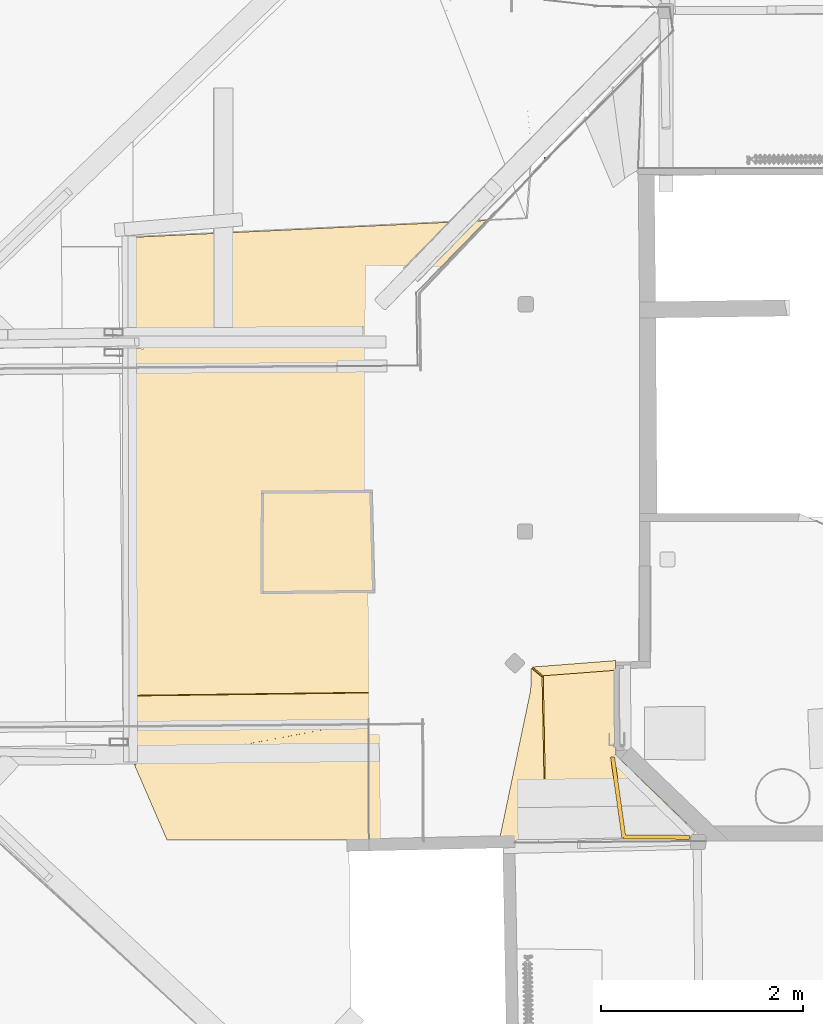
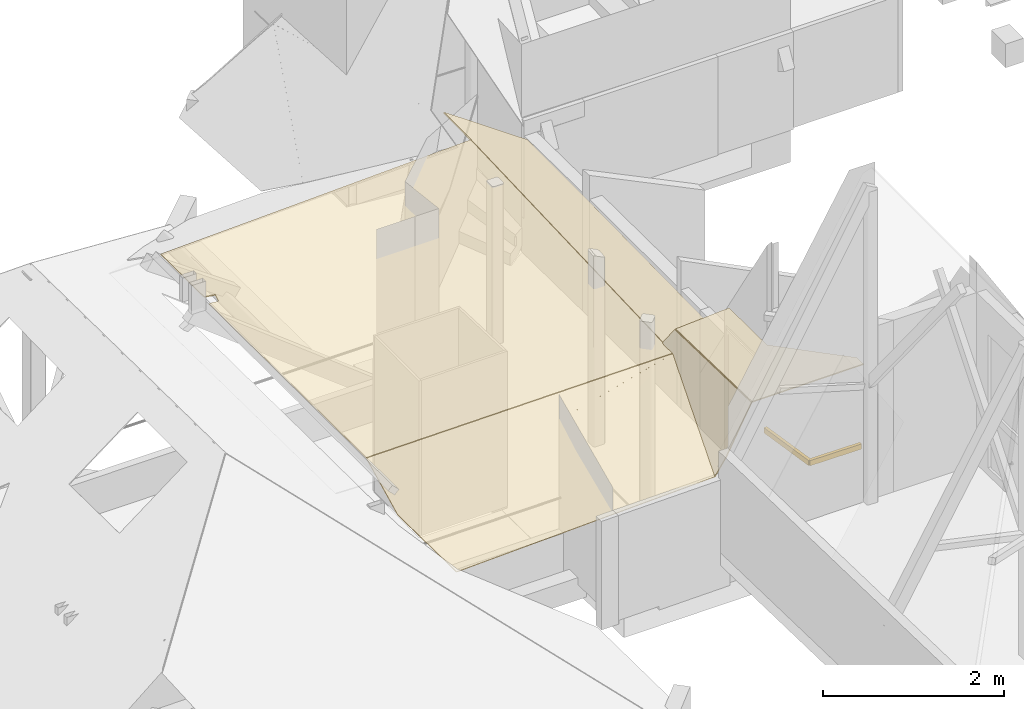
# One storey, part 27 of 39: 2 coverings, 1 railing.
"""IFC2X3 building model written with IfcOpenShell, lengths in centimetres."""

from ifc_helpers import new_model, entity, si_unit, converted_unit, direction, frame, origin, origin_with_axes, place, context, subcontext, project, spatial, faceted_brep, shape, source, transform, mapped, material, type_object, element, save


model = new_model("IFC2X3")

# Units and contexts
model_context = context("Model", 3, precision=0.0001, world=origin(), true_north=direction((0.225632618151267, 0.974212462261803, 0.0)))
body_context = subcontext(model_context, "Body", "Model", "MODEL_VIEW")
ifc_project = project(units=[si_unit("LENGTHUNIT", "METRE", prefix="CENTI"), si_unit("AREAUNIT", "SQUARE_METRE", prefix="CENTI"), si_unit("VOLUMEUNIT", "CUBIC_METRE", prefix="CENTI"), converted_unit("PLANEANGLEUNIT", "DEGREE", entity("IfcRatioMeasure", 0.0174532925), si_unit("PLANEANGLEUNIT", "RADIAN"), dimensions=[0, 0, 0, 0, 0, 0, 0])], contexts=[model_context])

# Site, building, storey
site_placement = place(None, origin_with_axes())
site = spatial("IfcSite", under=ifc_project, at=site_placement, Name="Default Site", CompositionType="ELEMENT")
building_placement = place(site_placement, origin_with_axes())
building = spatial("IfcBuilding", under=site, at=building_placement, Name="Default Building", CompositionType="ELEMENT")
storey_placement = place(building_placement, frame((0.0, 0.0, 1088.91037418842), z_axis=(0.0, 0.0, 1.0), x_axis=(1.0, 0.0, 0.0)))
storey = spatial("IfcBuildingStorey", under=building, at=storey_placement, Name="Mezzanine", CompositionType="ELEMENT", Elevation=1088.91037418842)

# Railing
ifc_material_1 = material(Name="Jaune 255-255-0")
railing_type = type_object("IfcRailingType", Name="Barreaux en bois avec poteaux pointus", PredefinedType="NOTDEFINED", material=ifc_material_1)
shared_shape_1 = source(origin_with_axes(), body_context, "Body", "Brep", [
    faceted_brep([(493.20592880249, -348.733758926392, 1207.4104309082), (489.24446105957, -349.287748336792, 1207.4104309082), (478.119993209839, -269.742012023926, 1207.4104309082), (482.081460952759, -269.188022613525, 1207.4104309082), (489.24446105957, -349.287748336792, 1214.41040039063), (478.119993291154, -269.742012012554, 1214.41040039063), (478.119993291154, -269.742012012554, 1207.4104309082), (493.20592880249, -348.733758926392, 1214.41040039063), (482.081460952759, -269.188022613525, 1214.41040039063), (478.119993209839, -269.742012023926, 1214.41040039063), (482.081461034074, -269.188022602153, 1207.4104309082), (482.081461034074, -269.188022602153, 1214.41040039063), (478.119996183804, -269.742033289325, 1207.4104309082), (478.119996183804, -269.742033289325, 1214.41040039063), (489.244464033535, -349.287769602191, 1214.41040039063), (489.244464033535, -349.287769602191, 1207.4104309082)], [[[0, 1, 2, 3]], [[1, 4, 5, 6]], [[4, 7, 8, 9]], [[7, 0, 10, 11]], [[3, 12, 13, 8]], [[7, 14, 15, 0]]]),
    faceted_brep([(556.226015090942, -347.000050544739, 1207.4104309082), (556.200361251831, -350.99995136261, 1207.4104309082), (490.720367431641, -350.579953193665, 1207.4104309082), (490.746021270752, -346.580052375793, 1207.4104309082), (556.200361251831, -350.99995136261, 1214.41040039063), (490.720367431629, -350.579953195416, 1214.41040039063), (490.720367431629, -350.579953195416, 1207.4104309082), (556.226015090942, -347.000050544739, 1214.41040039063), (490.746021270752, -346.580052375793, 1214.41040039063), (490.720367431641, -350.579953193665, 1214.41040039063), (490.746021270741, -346.580052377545, 1207.4104309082), (490.746021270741, -346.580052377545, 1214.41040039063), (490.720365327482, -350.579953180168, 1207.4104309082), (490.720365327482, -350.579953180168, 1214.41040039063), (556.200359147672, -350.999951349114, 1214.41040039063), (556.200359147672, -350.999951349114, 1207.4104309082)], [[[0, 1, 2, 3]], [[1, 4, 5, 6]], [[4, 7, 8, 9]], [[7, 0, 10, 11]], [[3, 12, 13, 8]], [[7, 14, 15, 0]]]),
])
shared_shape_2 = source(origin_with_axes(), body_context, "Body", "Brep", [
    faceted_brep([(493.20592880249, -348.733758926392, 1157.4104309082), (489.24446105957, -349.287748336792, 1157.4104309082), (478.119993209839, -269.742012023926, 1157.4104309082), (482.081460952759, -269.188022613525, 1157.4104309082), (489.24446105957, -349.287748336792, 1164.41040039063), (478.119993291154, -269.742012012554, 1164.41040039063), (478.119993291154, -269.742012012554, 1157.4104309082), (493.20592880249, -348.733758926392, 1164.41040039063), (482.081460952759, -269.188022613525, 1164.41040039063), (478.119993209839, -269.742012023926, 1164.41040039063), (482.081461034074, -269.188022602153, 1157.4104309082), (482.081461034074, -269.188022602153, 1164.41040039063), (478.119996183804, -269.742033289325, 1157.4104309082), (478.119996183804, -269.742033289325, 1164.41040039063), (489.244464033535, -349.287769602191, 1164.41040039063), (489.244464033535, -349.287769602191, 1157.4104309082)], [[[0, 1, 2, 3]], [[1, 4, 5, 6]], [[4, 7, 8, 9]], [[7, 0, 10, 11]], [[3, 12, 13, 8]], [[7, 14, 15, 0]]]),
    faceted_brep([(556.226015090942, -347.000050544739, 1157.4104309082), (556.200361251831, -350.99995136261, 1157.4104309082), (490.720367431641, -350.579953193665, 1157.4104309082), (490.746021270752, -346.580052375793, 1157.4104309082), (556.200361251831, -350.99995136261, 1164.41040039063), (490.720367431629, -350.579953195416, 1164.41040039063), (490.720367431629, -350.579953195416, 1157.4104309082), (556.226015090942, -347.000050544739, 1164.41040039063), (490.746021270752, -346.580052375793, 1164.41040039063), (490.720367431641, -350.579953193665, 1164.41040039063), (490.746021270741, -346.580052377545, 1157.4104309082), (490.746021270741, -346.580052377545, 1164.41040039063), (490.720365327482, -350.579953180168, 1157.4104309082), (490.720365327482, -350.579953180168, 1164.41040039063), (556.200359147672, -350.999951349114, 1164.41040039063), (556.200359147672, -350.999951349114, 1157.4104309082)], [[[0, 1, 2, 3]], [[1, 4, 5, 6]], [[4, 7, 8, 9]], [[7, 0, 10, 11]], [[3, 12, 13, 8]], [[7, 14, 15, 0]]]),
])
shared_shape_3 = source(origin_with_axes(), body_context, "Body", "Brep", [
    faceted_brep([(4.50000017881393, 4.50000017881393, 0.0), (-4.50000017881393, 4.50000017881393, 114.999997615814), (4.50000017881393, 4.50000017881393, 114.999997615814), (-4.50000017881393, 4.50000017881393, 0.0), (-4.50000017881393, -4.50000017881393, 0.0), (-4.50000017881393, -4.50000017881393, 114.999997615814), (4.50000017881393, -4.50000017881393, 114.999997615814), (4.50000017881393, -4.50000017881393, 0.0)], [[[0, 1, 2]], [[1, 0, 3]], [[4, 1, 3]], [[1, 4, 5]], [[4, 6, 5]], [[6, 4, 7]], [[6, 0, 2]], [[0, 6, 7]], [[6, 1, 5]], [[1, 6, 2]], [[0, 4, 3]], [[4, 0, 7]]]),
])
shared_shape_4 = source(origin_with_axes(), body_context, "Body", "Brep", [
    faceted_brep([(4.50000017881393, -1.49999996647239, -1.10214578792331e-15), (-4.50000017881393, 1.49999996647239, 1.10214573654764e-15), (4.50000017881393, 1.49999996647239, -1.10214578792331e-15), (-4.50000017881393, 1.49999996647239, 1.10214578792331e-15), (4.50000017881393, -1.49999996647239, -1.10214573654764e-15), (-4.50000017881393, -1.49999996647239, 1.10214578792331e-15), (-4.50000017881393, -1.49999996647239, 95.4999983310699), (-4.50000017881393, 1.49999996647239, 95.4999983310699), (-3.31075617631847e-13, -1.49999996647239, 100.0), (-4.50000016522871, 1.49999996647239, 95.4999983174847), (-4.50000016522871, -1.49999996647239, 95.4999983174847), (-1.35855507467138e-08, -1.49999996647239, 100.000000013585), (-1.35855507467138e-08, 1.49999996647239, 100.000000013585), (-3.31075617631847e-13, 1.49999996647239, 100.0), (4.50000016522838, -1.49999996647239, 95.4999983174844), (4.50000016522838, 1.49999996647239, 95.4999983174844), (4.50000017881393, -1.49999996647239, 95.4999983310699), (1.35852183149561e-08, 1.49999996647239, 100.000000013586), (1.35852183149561e-08, -1.49999996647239, 100.000000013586), (4.50000017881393, 1.49999996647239, 95.4999983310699)], [[[0, 1, 2]], [[3, 4, 5]], [[6, 3, 5]], [[3, 6, 7]], [[8, 9, 10]], [[7, 11, 12]], [[13, 14, 15]], [[16, 17, 18]], [[19, 0, 2]], [[0, 19, 16]], [[13, 3, 7]], [[3, 13, 2]], [[2, 13, 19]], [[0, 6, 5]], [[6, 0, 8]], [[8, 0, 16]]]),
])
railing_placement = place(storey_placement, frame((479.605545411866, -269.534265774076, 58.0), z_axis=(0.0, 0.0, 1.0), x_axis=(1.0, 0.0, 0.0)))
element("IfcRailing", 1, at=railing_placement, inside=storey, type_object=railing_type, material=ifc_material_1, Name="Garde-corps 195654", PredefinedType="NOTDEFINED", shapes=[
    shape(body_context, "Body", "MappedRepresentation", [mapped(shared_shape_1, transform((-479.605545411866, 269.534265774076, -1146.91037418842), x_axis=(1.0, 0.0, 0.0), y_axis=(0.0, 1.0, 0.0), z_axis=(0.0, 0.0, 1.0), scale=1.0, scale2=1.0, scale3=1.0, uniform=False))]),
    shape(body_context, "Body", "MappedRepresentation", [mapped(shared_shape_2, transform((-479.605545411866, 269.534265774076, -1146.91037418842), x_axis=(1.0, 0.0, 0.0), y_axis=(0.0, 1.0, 0.0), z_axis=(0.0, 0.0, 1.0), scale=1.0, scale2=1.0, scale3=1.0, uniform=False))]),
    shape(body_context, "Body", "MappedRepresentation", [mapped(shared_shape_3, transform((-1.3719360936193e-05, 1.16999794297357e-05, -20.9999966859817), x_axis=(0.138501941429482, -0.99036216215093, 0.0), y_axis=(0.99036216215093, 0.138501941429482, 0.0), z_axis=(0.0, 0.0, 1.0), scale=1.00000000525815, scale2=1.00000000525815, scale3=1.0, uniform=False))]),
    shape(body_context, "Body", "MappedRepresentation", [mapped(shared_shape_3, transform((11.1244541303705, -79.5457246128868, -20.9999966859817), x_axis=(0.138501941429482, -0.99036216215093, 0.0), y_axis=(0.99036216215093, 0.138501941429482, 0.0), z_axis=(0.0, 0.0, 1.0), scale=1.00000000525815, scale2=1.00000000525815, scale3=1.0, uniform=False))]),
    shape(body_context, "Body", "MappedRepresentation", [mapped(shared_shape_3, transform((76.6044479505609, -79.9657227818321, -20.9999966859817), x_axis=(0.999979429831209, -0.00641404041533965, 0.0), y_axis=(0.00641404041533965, 0.999979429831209, 0.0), z_axis=(0.0, 0.0, 1.0), scale=1.00000000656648, scale2=1.00000000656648, scale3=1.0, uniform=False))]),
    shape(body_context, "Body", "MappedRepresentation", [mapped(shared_shape_4, transform((-1.91017569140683, -8.00160191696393, -10.999958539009), x_axis=(0.138501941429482, -0.99036216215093, 0.0), y_axis=(0.99036216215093, 0.138501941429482, 0.0), z_axis=(0.0, 0.0, 1.0), scale=1.00000000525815, scale2=1.00000000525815, scale3=1.0, uniform=False))]),
    shape(body_context, "Body", "MappedRepresentation", [mapped(shared_shape_4, transform((-0.109638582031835, -20.8763005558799, -10.999958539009), x_axis=(0.138501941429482, -0.99036216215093, 0.0), y_axis=(0.99036216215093, 0.138501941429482, 0.0), z_axis=(0.0, 0.0, 1.0), scale=1.00000000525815, scale2=1.00000000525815, scale3=1.0, uniform=False))]),
    shape(body_context, "Body", "MappedRepresentation", [mapped(shared_shape_4, transform((1.69089852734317, -33.7510230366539, -10.999958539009), x_axis=(0.138501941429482, -0.99036216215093, 0.0), y_axis=(0.99036216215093, 0.138501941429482, 0.0), z_axis=(0.0, 0.0, 1.0), scale=1.00000000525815, scale2=1.00000000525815, scale3=1.0, uniform=False))]),
    shape(body_context, "Body", "MappedRepresentation", [mapped(shared_shape_4, transform((3.49138795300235, -46.6257216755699, -10.999958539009), x_axis=(0.138501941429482, -0.99036216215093, 0.0), y_axis=(0.99036216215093, 0.138501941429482, 0.0), z_axis=(0.0, 0.0, 1.0), scale=1.00000000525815, scale2=1.00000000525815, scale3=1.0, uniform=False))]),
    shape(body_context, "Body", "MappedRepresentation", [mapped(shared_shape_4, transform((5.29192506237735, -59.5004441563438, -10.999958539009), x_axis=(0.138501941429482, -0.99036216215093, 0.0), y_axis=(0.99036216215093, 0.138501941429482, 0.0), z_axis=(0.0, 0.0, 1.0), scale=1.00000000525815, scale2=1.00000000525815, scale3=1.0, uniform=False))]),
    shape(body_context, "Body", "MappedRepresentation", [mapped(shared_shape_4, transform((7.09246217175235, -72.3751427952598, -10.999958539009), x_axis=(0.138501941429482, -0.99036216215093, 0.0), y_axis=(0.99036216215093, 0.138501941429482, 0.0), z_axis=(0.0, 0.0, 1.0), scale=1.00000000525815, scale2=1.00000000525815, scale3=1.0, uniform=False))]),
    shape(body_context, "Body", "MappedRepresentation", [mapped(shared_shape_4, transform((17.8457599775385, -82.5888993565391, -10.999958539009), x_axis=(0.999979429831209, -0.00641404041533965, 0.0), y_axis=(0.00641404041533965, 0.999979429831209, 0.0), z_axis=(0.0, 0.0, 1.0), scale=1.00000000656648, scale2=1.00000000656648, scale3=1.0, uniform=False))]),
    shape(body_context, "Body", "MappedRepresentation", [mapped(shared_shape_4, transform((30.8454853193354, -82.6722981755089, -10.999958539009), x_axis=(0.999979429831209, -0.00641404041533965, 0.0), y_axis=(0.00641404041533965, 0.999979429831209, 0.0), z_axis=(0.0, 0.0, 1.0), scale=1.00000000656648, scale2=1.00000000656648, scale3=1.0, uniform=False))]),
    shape(body_context, "Body", "MappedRepresentation", [mapped(shared_shape_4, transform((43.8452106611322, -82.7556731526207, -10.999958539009), x_axis=(0.999979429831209, -0.00641404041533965, 0.0), y_axis=(0.00641404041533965, 0.999979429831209, 0.0), z_axis=(0.0, 0.0, 1.0), scale=1.00000000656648, scale2=1.00000000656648, scale3=1.0, uniform=False))]),
    shape(body_context, "Body", "MappedRepresentation", [mapped(shared_shape_4, transform((56.8449360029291, -82.8390481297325, -10.999958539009), x_axis=(0.999979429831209, -0.00641404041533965, 0.0), y_axis=(0.00641404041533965, 0.999979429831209, 0.0), z_axis=(0.0, 0.0, 1.0), scale=1.00000000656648, scale2=1.00000000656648, scale3=1.0, uniform=False))]),
    shape(body_context, "Body", "MappedRepresentation", [mapped(shared_shape_4, transform((69.844661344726, -82.9224469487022, -10.999958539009), x_axis=(0.999979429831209, -0.00641404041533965, 0.0), y_axis=(0.00641404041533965, 0.999979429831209, 0.0), z_axis=(0.0, 0.0, 1.0), scale=1.00000000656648, scale2=1.00000000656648, scale3=1.0, uniform=False))]),
])

# Coverings
ifc_material_2 = material(Name="Blanc")
covering_1_placement = place(storey_placement, frame((400.788795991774, -181.623247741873, 232.702416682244), z_axis=(0.0, 0.0, 1.0), x_axis=(1.0, 0.0, 0.0)))
element("IfcCovering", 2, at=covering_1_placement, inside=storey, material=ifc_material_2, Name="Faux-plafond 1900119", PredefinedType="CEILING", context=body_context, shape_type="Brep", body=[
    faceted_brep([(82.0406794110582, -3.37395322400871, 1.40003795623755), (10.7111811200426, -8.84675633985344, 1.40003795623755), (13.8011812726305, -172.54674089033, 1.40003795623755), (156.644380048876, -171.089121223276, 1.40003795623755), (156.409633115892, -156.913873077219, 1.40003795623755), (82.6451658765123, -86.0618795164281, 1.40003795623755), (82.6451658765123, -86.0618795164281, 4.40597531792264e-05), (156.409633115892, -156.913873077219, 4.40597531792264e-05), (156.644380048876, -171.089121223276, 4.40597531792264e-05), (13.8011812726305, -172.54674089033, 4.40597531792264e-05), (10.7111811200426, -8.84675633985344, 4.40597531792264e-05), (82.0406794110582, -3.37395322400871, 4.40597531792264e-05), (10.7111813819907, -8.84675975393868, 4.40597531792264e-05), (10.7111813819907, -8.84675975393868, 1.40003795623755), (13.8011806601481, -172.546740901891, 4.40597531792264e-05), (13.8011806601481, -172.546740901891, 1.40003795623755), (156.644380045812, -171.089120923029, 4.40597531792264e-05), (156.644380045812, -171.089120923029, 1.40003795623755), (156.409634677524, -156.913873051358, 4.40597531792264e-05), (156.409634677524, -156.913873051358, 1.40003795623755), (82.6451523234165, -86.0618936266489, 4.40597531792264e-05), (82.6451523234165, -86.0618936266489, 1.40003795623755), (82.0406806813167, -3.37395321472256, 4.40597531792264e-05), (82.0406806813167, -3.37395321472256, 1.40003795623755)], [[[0, 1, 2, 3, 4, 5]], [[6, 7, 8, 9, 10, 11]], [[11, 12, 13, 0]], [[10, 14, 15, 1]], [[9, 16, 17, 2]], [[8, 18, 19, 3]], [[7, 20, 21, 4]], [[6, 22, 23, 5]]]),
    faceted_brep([(9.47507615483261, -8.88924253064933, 0.655885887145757), (-1.2361246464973, -0.0424949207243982, -18.9568991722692), (-1.79937631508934, -21.7239105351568, -21.4231074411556), (-0.56325201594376, -21.6814244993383, -22.0790422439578), (3.35279737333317e-05, 5.02027644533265e-06, -19.6127692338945), (10.7112346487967, -8.84675449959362, 1.56559891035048e-05), (10.7111811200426, -8.84675633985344, 4.40597531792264e-05), (-1.3317267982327e-05, -5.05499219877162e-06, -19.612748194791), (-1.23611458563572, -0.0424799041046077, -18.9568978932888), (9.4750782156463, -8.88922956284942, 0.655890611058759), (-1.19646742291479e-05, 3.45628914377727e-06, -19.6127450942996), (-0.563239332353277, -21.6814275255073, -22.0790185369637), (-1.79937364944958, -21.7239124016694, -21.4230916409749), (-1.23608913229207, -0.042501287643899, -18.9568513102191), (10.7111792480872, -8.84674940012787, 4.09815506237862e-05), (9.47508276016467, -8.88926701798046, 0.655896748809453), (-1.79937996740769, -21.7239138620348, -21.4231036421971)], [[[0, 1, 2]], [[3, 4, 5]], [[6, 7, 8, 9]], [[10, 11, 12, 13]], [[3, 14, 15, 16]]]),
    faceted_brep([(81.9951891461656, 7.99519169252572, -69.6606195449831), (10.605179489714, -7.46480121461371, 0.197456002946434), (81.9412103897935, -2.00465734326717, 0.289581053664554), (82.0472597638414, -3.38660132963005, 0.092168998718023), (10.7111805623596, -8.84674907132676, 4.5098407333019e-05), (82.1011892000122, 6.61325711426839, -69.858123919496), (82.1011900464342, 6.61324608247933, -69.8581254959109), (10.711165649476, -8.84675530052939, 2.84799516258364e-05), (10.6051828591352, -7.46481090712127, 0.197457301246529), (81.9951596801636, 7.99519367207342, -69.6606492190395), (10.7111811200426, -8.84675633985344, 4.40597531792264e-05), (82.0472597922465, -3.38660175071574, 0.0921719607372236), (81.9412118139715, -2.00467704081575, 0.289645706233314), (10.6051808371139, -7.46481988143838, 0.197519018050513), (82.1012023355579, 6.61324700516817, -69.8581253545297), (81.9951713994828, 7.99519036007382, -69.6606197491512), (81.9412305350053, -2.00466618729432, 0.289579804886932)], [[[0, 1, 2]], [[3, 4, 5]], [[6, 7, 8, 9]], [[10, 11, 12, 13]], [[3, 14, 15, 16]]]),
    faceted_brep([(0.186288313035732, 1.29832374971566, -18.8589609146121), (10.8974829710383, -7.54841315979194, 0.528193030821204), (82.1563116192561, 7.58512998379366, -66.7232093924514), (81.9700598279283, 6.28680336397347, -67.2128236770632), (10.7111799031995, -8.84676482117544, 0.0386646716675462), (-1.17887837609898e-05, 4.68223496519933e-06, -19.3485768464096), (-1.19646742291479e-05, 3.45628914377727e-06, -19.348577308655), (10.7112124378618, -8.84675460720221, 0.038651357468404), (10.8974864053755, -7.54842384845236, 0.528186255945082), (0.186301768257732, 1.29832449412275, -18.8589680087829), (10.7111811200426, -8.84675633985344, 0.0386678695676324), (81.9700630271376, 6.28680176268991, -67.2128206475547), (82.1562923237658, 7.58514563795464, -66.7232263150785), (10.8974779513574, -7.54842240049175, 0.528185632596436), (-3.1596015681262e-06, -3.16472595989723e-06, -19.3485630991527), (0.186259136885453, 1.29834568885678, -18.8590079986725), (82.1562880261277, 7.58515392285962, -66.7232466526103)], [[[0, 1, 2]], [[3, 4, 5]], [[6, 7, 8, 9]], [[10, 11, 12, 13]], [[3, 14, 15, 16]]]),
    faceted_brep([(-1.8040061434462, -21.7048372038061, -21.3996446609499), (-32.7395297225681, -169.533988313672, -85.9647322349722), (-19.6235789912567, -172.860142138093, -60.9756975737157), (12.5598901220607, -172.539325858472, 0.648059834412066), (9.47047009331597, -8.87016868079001, 0.648055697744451), (10.7111811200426, -8.84675633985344, 4.40597531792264e-05), (13.8006011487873, -172.515913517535, 4.81964207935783e-05), (-18.3829070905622, -172.836730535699, -61.6237841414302), (-31.4988190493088, -169.510552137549, -86.6127436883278), (-0.563290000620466, -21.6814252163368, -22.0476465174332), (-0.56325201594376, -21.6814244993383, -22.047666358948), (-31.4987962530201, -169.510557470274, -86.6127424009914), (-32.739502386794, -169.534018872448, -85.9646753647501), (-1.8039733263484, -21.7048709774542, -21.3995830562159), (-31.4988017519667, -169.510551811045, -86.6127527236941), (-18.3828468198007, -172.836715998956, -61.6238138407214), (-19.6235774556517, -172.860137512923, -60.975697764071), (-32.7395310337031, -169.533963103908, -85.964728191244), (-18.3828473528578, -172.836729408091, -61.6238153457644), (13.8006090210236, -172.515910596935, 4.40698814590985e-05), (12.5598788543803, -172.539330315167, 0.648065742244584), (-19.6235775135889, -172.86014947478, -60.9756983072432), (13.8006090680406, -172.515913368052, 4.40597531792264e-05), (10.7111832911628, -8.84675629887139, 4.82176357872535e-05), (9.47048615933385, -8.87016837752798, 0.648133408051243), (12.5599119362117, -172.539325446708, 0.648129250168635), (-0.563253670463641, -21.6814180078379, -22.0476692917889), (-1.80399776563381, -21.7048700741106, -21.3996298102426), (9.47045964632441, -8.8702036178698, 0.648081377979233)], [[[0, 1, 2, 3, 4]], [[5, 6, 7, 8, 9]], [[10, 11, 12, 13]], [[14, 15, 16, 17]], [[18, 19, 20, 21]], [[22, 23, 24, 25]], [[5, 26, 27, 28]]]),
])
covering_2_placement = place(storey_placement, frame((5.35818146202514, 245.155501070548, 211.702416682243), z_axis=(0.0, 0.0, 1.0), x_axis=(1.0, 0.0, 0.0)))
element("IfcCovering", 3, at=covering_2_placement, inside=storey, material=ifc_material_2, Name="Faux-plafond 200767", PredefinedType="CEILING", context=body_context, shape_type="Brep", body=[
    faceted_brep([(394.81677009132, -449.018883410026, 1.28263683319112), (33.5118222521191, -596.777621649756, -77.3301451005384), (363.881220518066, -596.848032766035, -64.3301602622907), (363.931812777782, -596.289300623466, -65.6127527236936), (33.562411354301, -596.21892437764, -78.612752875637), (394.867362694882, -448.460171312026, 3.5654174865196e-05), (394.867362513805, -448.460173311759, 4.02450563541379e-05), (33.5624207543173, -596.218937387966, -78.6127716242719), (33.5118252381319, -596.777665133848, -77.3300770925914), (394.816761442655, -449.01886609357, 1.28264403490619), (33.5624117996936, -596.218919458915, -78.6127641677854), (363.931812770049, -596.289300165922, -65.6127525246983), (363.881219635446, -596.847991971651, -64.3301376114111), (33.5118192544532, -596.777646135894, -77.3300690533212), (394.867336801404, -448.460168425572, 4.13592553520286e-05), (394.816742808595, -449.018878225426, 1.28263801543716), (363.881214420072, -596.848033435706, -64.330155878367)], [[[0, 1, 2]], [[3, 4, 5]], [[6, 7, 8, 9]], [[10, 11, 12, 13]], [[3, 14, 15, 16]]]),
    faceted_brep([(0.701818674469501, -95.3055021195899, 1.40003414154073), (13.2058907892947, -97.8315827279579, 1.40003414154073), (10.2764148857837, -110.625803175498, 1.40003414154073), (-1.34818138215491, -109.125506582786, 1.40003414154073), (0.501818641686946, -453.55551213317, 1.40003414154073), (394.867362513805, -448.460173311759, 1.40003414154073), (407.02036811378, 19.3325045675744, 1.40003414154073), (5.92713655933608e-08, 2.95113444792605e-07, 1.40003414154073), (5.92713655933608e-08, 2.95113444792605e-07, 4.02450563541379e-05), (407.02036811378, 19.3325045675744, 4.02450563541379e-05), (394.867362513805, -448.460173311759, 4.02450563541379e-05), (0.501818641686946, -453.55551213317, 4.02450563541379e-05), (-1.34818138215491, -109.125506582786, 4.02450563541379e-05), (10.2764148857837, -110.625803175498, 4.02450563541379e-05), (13.2058907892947, -97.8315827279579, 4.02450563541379e-05), (0.701818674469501, -95.3055021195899, 4.02450563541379e-05), (13.2058897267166, -97.8315879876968, 4.02450563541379e-05), (13.2058897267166, -97.8315879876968, 1.40003414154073), (10.2764143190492, -110.625803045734, 4.02450563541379e-05), (10.2764143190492, -110.625803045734, 1.40003414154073), (-1.34818054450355, -109.125500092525, 4.02450563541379e-05), (-1.34818054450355, -109.125500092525, 1.40003414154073), (0.501818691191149, -453.555512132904, 4.02450563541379e-05), (0.501818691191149, -453.555512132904, 1.40003414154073), (394.867362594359, -448.460179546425, 4.02450563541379e-05), (394.867362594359, -448.460179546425, 1.40003414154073), (407.020383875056, 19.3325041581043, 4.02450563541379e-05), (407.020383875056, 19.3325041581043, 1.40003414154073), (4.22903332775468e-07, -7.36067477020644e-06, 4.02450563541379e-05), (4.22903332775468e-07, -7.36067477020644e-06, 1.40003414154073), (0.701818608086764, -95.3055021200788, 4.02450563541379e-05), (0.701818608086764, -95.3055021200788, 1.40003414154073)], [[[0, 1, 2, 3, 4, 5, 6, 7]], [[8, 9, 10, 11, 12, 13, 14, 15]], [[15, 16, 17, 0]], [[14, 18, 19, 1]], [[13, 20, 21, 2]], [[12, 22, 23, 3]], [[11, 24, 25, 4]], [[10, 26, 27, 5]], [[9, 28, 29, 6]], [[8, 30, 31, 7]]]),
    faceted_brep([(1.37631042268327, -522.573208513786, -34.3973711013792), (33.5819714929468, -596.913495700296, -77.3973749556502), (394.886913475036, -449.154733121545, 1.2251699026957), (394.867362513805, -448.460173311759, 0.00976772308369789), (33.5624117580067, -596.218917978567, -78.6127667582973), (1.35675258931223, -521.878671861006, -35.6127864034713), (1.35675190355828, -521.878647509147, -35.612829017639), (33.5624005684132, -596.218923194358, -78.6127661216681), (33.5819708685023, -596.913480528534, -77.3974016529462), (1.37630756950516, -522.573209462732, -34.3973715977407), (33.5624117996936, -596.218919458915, -78.6127641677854), (394.867350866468, -448.460151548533, 0.0097803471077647), (394.886896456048, -449.154679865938, 1.22514802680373), (33.5819568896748, -596.913453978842, -77.3973862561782), (1.35674988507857, -521.878639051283, -35.6128241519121), (1.37631054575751, -522.573209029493, -34.3973713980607), (394.886909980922, -449.154698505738, 1.22513715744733)], [[[0, 1, 2]], [[3, 4, 5]], [[6, 7, 8, 9]], [[10, 11, 12, 13]], [[3, 14, 15, 16]]]),
    faceted_brep([(407.735194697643, 79.3140175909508, 2.1251127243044), (407.73520803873, 19.3140267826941, 1.20359969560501), (396.145451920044, -426.797235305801, 1.23527756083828), (478.115482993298, -420.510434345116, -47.3507780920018), (501.198278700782, -420.392405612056, -61.0580093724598), (502.279407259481, -325.61917256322, -60.2445324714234), (502.256493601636, -283.005568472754, -59.5764462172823), (502.138651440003, -64.0610810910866, -56.1438173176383), (500.842397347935, 55.9126385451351, -53.5313555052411), (500.127591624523, 55.931139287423, -54.7349527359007), (501.423845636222, -64.0425922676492, -57.3474146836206), (501.541645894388, -282.987084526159, -60.7800187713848), (501.564601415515, -325.600689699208, -61.4481299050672), (500.483472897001, -420.373916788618, -62.2616067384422), (477.400677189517, -420.491945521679, -48.5543754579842), (395.430604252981, -426.778745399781, 0.0317050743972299), (407.020360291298, 19.3325047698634, 2.70738410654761e-05), (407.020388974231, 79.3325183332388, 0.921515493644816), (407.02036811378, 79.3325188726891, 0.921480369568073), (407.020396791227, 19.3325048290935, 2.32173235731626e-05), (407.735195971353, 19.3140271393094, 1.20357647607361), (407.735209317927, 79.314017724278, 2.12510404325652), (407.02036811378, 19.3325045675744, 4.02450563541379e-05), (395.430610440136, -426.778745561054, 0.0316975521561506), (396.1454095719, -426.797234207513, 1.23525085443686), (407.735167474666, 19.3140278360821, 1.20359341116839), (395.430602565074, -426.778745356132, 0.0317022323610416), (477.400674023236, -420.49193875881, -48.5543799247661), (478.115500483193, -420.510425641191, -47.3507474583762), (396.14542881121, -426.797227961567, 1.23523952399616), (477.400674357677, -420.491945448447, -48.5543802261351), (500.483455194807, -420.373916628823, -62.2616365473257), (501.198281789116, -420.392402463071, -61.0580041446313), (478.115500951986, -420.510431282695, -47.3507478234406), (500.48345519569, -420.373916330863, -62.2616365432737), (501.564599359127, -325.600689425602, -61.4481590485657), (502.279440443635, -325.619172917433, -60.2445353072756), (501.198296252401, -420.392405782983, -61.0580127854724), (501.564588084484, -325.600689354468, -61.4481523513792), (501.541671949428, -282.987084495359, -60.7800198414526), (501.423803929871, -64.0425919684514, -57.3474351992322), (502.138645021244, -64.0610811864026, -56.1438114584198), (502.256471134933, -283.0055681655, -59.5764665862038), (502.279429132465, -325.619172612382, -60.2445285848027), (407.020368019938, 79.3325183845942, 0.921480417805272), (407.735198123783, 79.3140354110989, 2.12511096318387), (500.842421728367, 55.9126563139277, -53.5313221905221), (501.423825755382, -64.0425917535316, -57.347448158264), (500.127601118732, 55.9311395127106, -54.7349583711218), (500.842442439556, 55.9126385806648, -53.5313347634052), (502.138666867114, -64.0610807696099, -56.1438244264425)], [[[0, 1, 2, 3, 4, 5, 6, 7, 8]], [[9, 10, 11, 12, 13, 14, 15, 16, 17]], [[18, 19, 20, 21]], [[22, 23, 24, 25]], [[26, 27, 28, 29]], [[30, 31, 32, 33]], [[34, 35, 36, 37]], [[38, 39, 40, 41, 42, 43]], [[9, 44, 45, 46]], [[47, 48, 49, 50]]]),
    faceted_brep([(1.36513827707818, -522.527742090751, -34.5175340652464), (394.875707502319, -449.109270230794, 1.24043909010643), (0.510205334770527, -454.204607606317, 1.2404363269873), (0.501818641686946, -453.55551213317, 4.02450563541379e-05), (394.867362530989, -448.46017464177, 4.27867325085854e-05), (1.3567521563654, -521.878667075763, -35.7579408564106), (1.35675190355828, -521.878647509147, -35.757978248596), (394.867362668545, -448.460173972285, 3.98983693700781e-05), (394.875705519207, -449.109237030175, 1.2403927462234), (1.36513937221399, -522.527746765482, -34.5175365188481), (394.867362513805, -448.460173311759, 4.02450563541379e-05), (0.501818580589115, -453.555507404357, 4.27199673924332e-05), (0.510204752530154, -454.204562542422, 1.24039970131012), (394.875706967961, -449.109228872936, 1.24039700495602), (1.35675178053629, -521.878647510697, -35.7579782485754), (1.36513829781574, -522.527742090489, -34.5175340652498), (0.510204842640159, -454.204582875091, 1.24038906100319)], [[[0, 1, 2]], [[3, 4, 5]], [[6, 7, 8, 9]], [[10, 11, 12, 13]], [[3, 14, 15, 16]]]),
])

save(model, "model.ifc")
